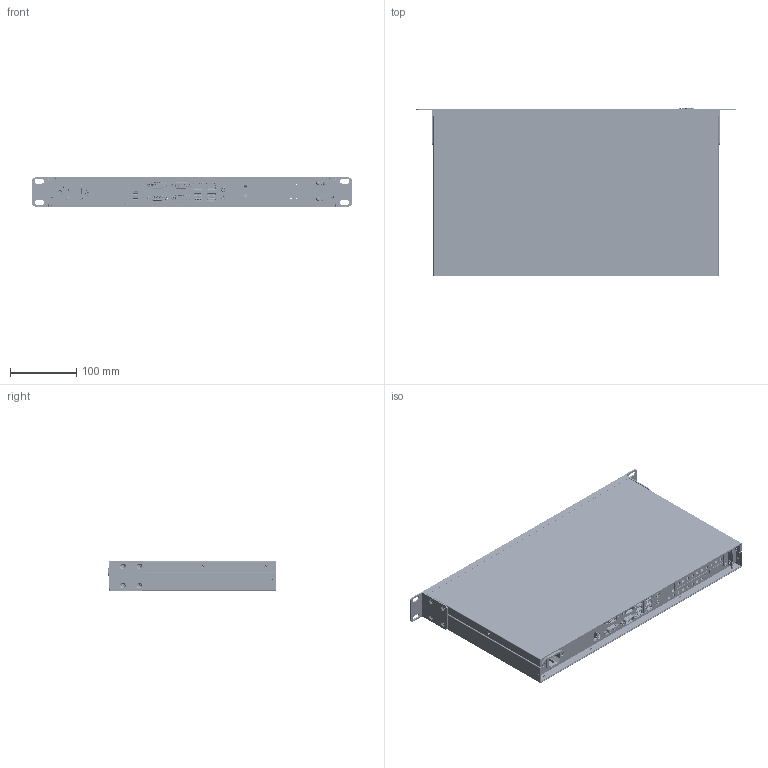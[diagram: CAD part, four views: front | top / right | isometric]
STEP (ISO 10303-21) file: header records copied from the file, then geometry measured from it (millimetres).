
FILE_DESCRIPTION (( 'STEP AP214' ), '1' );
FILE_NAME ('Assy_1U_MP_寡ん辨.STEP', '2018-02-05T23:55:19', ( '' ), ( '' ), 'SwSTEP 2.0', 'SolidWorks 2017', '' );
FILE_SCHEMA (( 'AUTOMOTIVE_DESIGN' ));
Length unit declared in the file: millimetre
Products named in the file (28): Bolt_鹵綠_褊濠_M3_4; USB_A_Dip_Vert_A; Connector_AC soket; PCB_Front; Audio; Connector_PCB Front; Case Bottom_B; 1U Front; Assy_1U_MP_寡ん辨; Bolt_鹵綠_褊濠_M3_6; Bracket_Front PCB; Switch_PCB; Pin Header2x10_Angle; Assy_Perseus v1.2_諼睡辨 歜衛; LED_Dip_5Pie_RED; AK_D_SUB_18P_4HD_RA_LFA; D_SUB_24P; Case Upper_晦獄<陛奢 鼻鷓>; RU1-161A9WGF; LED_568-0724-444F; Logo Plate_BNT21031_Cimon_AL; Bracket_Rack_1U; Bracket_PCI Shield; Bolt_蕾衛_褊濠_M3_6_模舒; Bracket_PCI Holder; Bolt_蕾衛_褊濠_M4_10; Case IO_Perseus_B
Assembly tree (66 placements, depth 3):
  Assy_1U_MP_寡ん辨
    Assy_Perseus v1.2_諼睡辨 歜衛
      LED_568-0724-444F
      RU1-161A9WGF  x2
      Audio
      D_SUB_24P
      AK_D_SUB_18P_4HD_RA_LFA
    Connector_AC soket
    PCB_Front
      PCB_Front
      Pin Header2x10_Angle
      USB_A_Dip_Vert_A  x2
      LED_Dip_5Pie_RED  x3
      Switch_PCB  x2
      Connector_PCB Front
    Logo Plate_BNT21031_Cimon_AL
    Bolt_蕾衛_褊濠_M3_6_模舒  x16
    Bolt_鹵綠_褊濠_M3_4  x9
    Bolt_鹵綠_褊濠_M3_6  x4
    Bolt_蕾衛_褊濠_M4_10  x8
    1U Front
    Case Bottom_B
    Case IO_Perseus_B
    Case Upper_晦獄<陛奢 鼻鷓>
    Bracket_Front PCB
    Bracket_Rack_1U  x2
    Bracket_PCI Holder
    Bracket_PCI Shield
Bounding box: 482.2 x 252 x 44.1 mm (x, y, z)
Volume: 443042.7 mm3; surface area: 729947.3 mm2
Topology: 63 solids, 212 shells, 12693 faces, 39056 edges, 26261 vertices
Faces by surface type: plane 7259, cylinder 3816, bspline 787, cone 518, torus 275, sphere 38
Full cylindrical faces by diameter (mm): 1 x4
Entity records: 410020 total; most frequent: CARTESIAN_POINT 133307, ORIENTED_EDGE 49894, DIRECTION 42035, EDGE_CURVE 26506, VERTEX_POINT 17782, VECTOR 17255, LINE 17255, AXIS2_PLACEMENT_3D 12390
